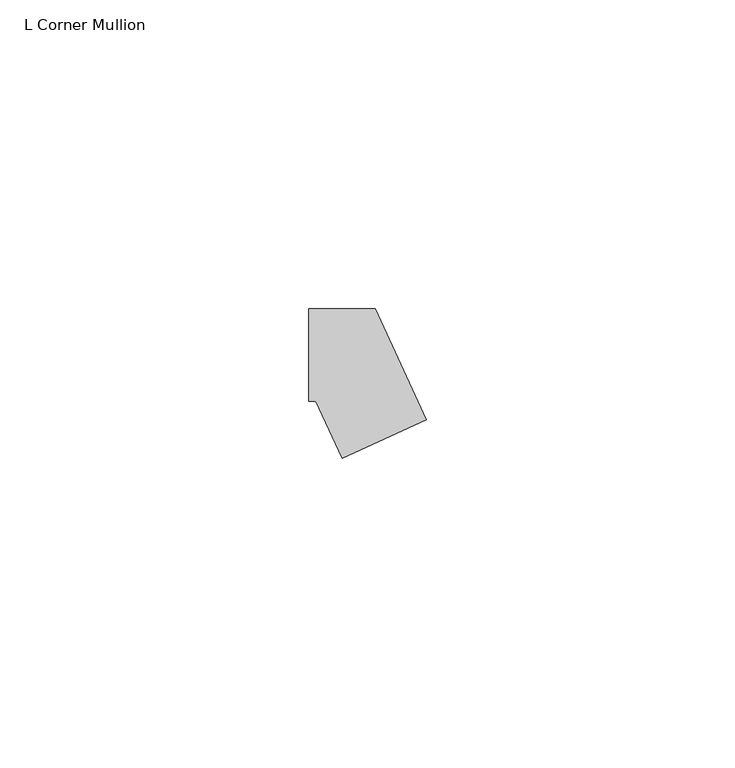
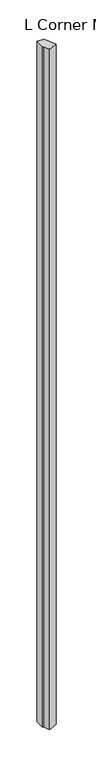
"""IFC4 building model written with IfcOpenShell, lengths in millimetres: member geometry, L Corner Mullion : ARQ_HERR_15X6mm."""

import ifcopenshell
import ifcopenshell.guid

model = None  # the IFC model being written
_history = None  # IfcOwnerHistory: only IFC2X3 demands one
_inside = {}  # id of a spatial element -> (the spatial element, [elements in it])
_under = {}  # id of a project, library or spatial element -> (it, [spatial elements below it])
_declared = {}  # id of a project -> (the project, [libraries it declares])
_typed = {}  # id of a type object -> (the type object, [elements of that type])
_made_of = {}  # id of a material, layer set ... -> (it, [elements and type objects made of it])


def new_model(schema):
    """Start an empty IFC model of exactly this schema.

    Asked for "IFC4X3", IfcOpenShell would pick the latest addendum, in which some entities
    have other attributes; the version numbers below select the first issue.
    IFC2X3 requires an IfcOwnerHistory on every rooted entity: one is made here for all.
    """
    global model, _history
    if schema == "IFC4X3":
        model = ifcopenshell.file(schema_version=(4, 3, 0, 0))
    else:
        model = ifcopenshell.file(schema=schema)
    _inside.clear()
    _under.clear()
    _declared.clear()
    _typed.clear()
    _made_of.clear()
    _history = None
    if model.schema == "IFC2X3":
        org = make("IfcOrganization", Name="unknown")
        user = make(
            "IfcPersonAndOrganization",
            ThePerson=make("IfcPerson", FamilyName="unknown"),
            TheOrganization=org,
        )
        app = make(
            "IfcApplication",
            ApplicationDeveloper=org,
            Version="unknown",
            ApplicationFullName="unknown",
            ApplicationIdentifier="unknown",
        )
        _history = make(
            "IfcOwnerHistory",
            OwningUser=user,
            OwningApplication=app,
            ChangeAction="ADDED",
            CreationDate=0,
        )
    return model


def make(cls, **values):
    """One entity of the class cls with the attributes given. An attribute that is None is left unset."""
    return model.create_entity(
        cls, **{name: value for name, value in values.items() if value is not None}
    )


def rooted(cls, **values):
    """An entity with a GlobalId (a new one), such as an element, a storey or a relation."""
    return make(cls, GlobalId=ifcopenshell.guid.new(), OwnerHistory=_history, **values)


def si_unit(unit_type, name, prefix=None):
    """IfcSIUnit, for example si_unit("LENGTHUNIT", "METRE", prefix="MILLI")."""
    return make("IfcSIUnit", UnitType=unit_type, Prefix=prefix, Name=name)


def assignment(units):
    """IfcUnitAssignment: the units of a project."""
    return None if units is None else make("IfcUnitAssignment", Units=units)


def point(xyz):
    """IfcCartesianPoint."""
    return None if xyz is None else make("IfcCartesianPoint", Coordinates=xyz)


def direction(xyz):
    """IfcDirection."""
    return None if xyz is None else make("IfcDirection", DirectionRatios=xyz)


def frame(location, z_axis=None, x_axis=None):
    """IfcAxis2Placement3D, a coordinate frame: its origin and axes. An axis left out is left unset."""
    return make(
        "IfcAxis2Placement3D",
        Location=point(location),
        Axis=direction(z_axis),
        RefDirection=direction(x_axis),
    )


def origin():
    """The frame at (0, 0, 0) with its axes left unset."""
    return frame((0.0, 0.0, 0.0))


def place(relative_to, where):
    """IfcLocalPlacement: puts the frame where relative to a parent placement (None: the world)."""
    return make(
        "IfcLocalPlacement", PlacementRelTo=relative_to, RelativePlacement=where
    )


def context(
    kind, dimensions, precision=None, world=None, true_north=None, identifier=None
):
    """IfcGeometricRepresentationContext, for example the 3D "Model" context."""
    return make(
        "IfcGeometricRepresentationContext",
        ContextIdentifier=identifier,
        ContextType=kind,
        CoordinateSpaceDimension=dimensions,
        Precision=precision,
        WorldCoordinateSystem=world,
        TrueNorth=true_north,
    )


def project(units=None, contexts=None):
    """IfcProject with its units and contexts."""
    return rooted(
        "IfcProject",
        Name="project",
        RepresentationContexts=contexts,
        UnitsInContext=assignment(units),
    )


def spatial(cls, under=None, at=None, **own):
    """A site, building, storey or space (cls), placed at a placement, below another one or the project."""
    s = rooted(cls, ObjectPlacement=at, **own)
    if under is not None:
        _under.setdefault(under.id(), (under, []))[1].append(s)
    return s


def polyline(points):
    """IfcPolyline through the points."""
    return make("IfcPolyline", Points=[point(p) for p in points])


def outline(outer, holes=None, kind="AREA"):
    """IfcArbitraryClosedProfileDef: a profile drawn as a closed curve; with holes, ...WithVoids."""
    if holes is None:
        return make("IfcArbitraryClosedProfileDef", ProfileType=kind, OuterCurve=outer)
    return make(
        "IfcArbitraryProfileDefWithVoids",
        ProfileType=kind,
        OuterCurve=outer,
        InnerCurves=holes,
    )


def extrude(swept, where, along, depth):
    """IfcExtrudedAreaSolid: the profile swept, set in the frame where, extruded along a direction by depth."""
    return make(
        "IfcExtrudedAreaSolid",
        SweptArea=swept,
        Position=where,
        ExtrudedDirection=direction(along),
        Depth=depth,
    )


def shape(context_of_items, identifier, shape_type, items):
    """IfcShapeRepresentation: the items that make up one representation, for example the "Body"."""
    return make(
        "IfcShapeRepresentation",
        ContextOfItems=context_of_items,
        RepresentationIdentifier=identifier,
        RepresentationType=shape_type,
        Items=items,
    )


def source(mapping_origin, context_of_items, identifier, shape_type, items):
    """IfcRepresentationMap: a shape defined once, which mapped items show again and again."""
    return make(
        "IfcRepresentationMap",
        MappingOrigin=mapping_origin,
        MappedRepresentation=shape(context_of_items, identifier, shape_type, items),
    )


def transform(
    local_origin,
    x_axis=None,
    y_axis=None,
    z_axis=None,
    scale=None,
    scale2=None,
    scale3=None,
    uniform=True,
):
    """IfcCartesianTransformationOperator3D, or its non-uniform kind. x_axis, y_axis, z_axis: its Axis1, 2, 3."""
    if uniform:
        return make(
            "IfcCartesianTransformationOperator3D",
            Axis1=direction(x_axis),
            Axis2=direction(y_axis),
            LocalOrigin=point(local_origin),
            Scale=scale,
            Axis3=direction(z_axis),
        )
    return make(
        "IfcCartesianTransformationOperator3DnonUniform",
        Axis1=direction(x_axis),
        Axis2=direction(y_axis),
        LocalOrigin=point(local_origin),
        Scale=scale,
        Axis3=direction(z_axis),
        Scale2=scale2,
        Scale3=scale3,
    )


def mapped(mapping_source, mapping_target):
    """IfcMappedItem: shows the shape of a source again, moved by a transform."""
    return make(
        "IfcMappedItem", MappingSource=mapping_source, MappingTarget=mapping_target
    )


def made_of(thing, what):
    """Note that an element or type object is made of a material, layer set ...; save() writes the relation."""
    if what is not None:
        _made_of.setdefault(what.id(), (what, []))[1].append(thing)
    return thing


def element(
    cls,
    number,
    at=None,
    inside=None,
    cuts=None,
    type_object=None,
    material=None,
    context=None,
    identifier="Body",
    shape_type=None,
    held_by="IfcProductDefinitionShape",
    body=None,
    shapes=None,
    **own,
):
    """One element of the class cls, such as IfcWall. Its Tag is "e" and its number.

    at: its placement. inside: the storey or other place that contains it. cuts: it is an
    opening in that element (IfcRelVoidsElement). A single representation is given by context,
    identifier, shape_type and body (its items); several are given by shapes. held_by: the class
    of the entity that holds the representations. save() writes the other relations.
    """
    e = rooted(cls, Tag="e%d" % number, ObjectPlacement=at, **own)
    if body is not None:
        shapes = [shape(context, identifier, shape_type, body)]
    if shapes is not None:
        e.Representation = make(held_by, Representations=shapes)
    if inside is not None:
        _inside.setdefault(inside.id(), (inside, []))[1].append(e)
    if cuts is not None:
        rooted(
            "IfcRelVoidsElement", RelatingBuildingElement=cuts, RelatedOpeningElement=e
        )
    if type_object is not None:
        _typed.setdefault(type_object.id(), (type_object, []))[1].append(e)
    return made_of(e, material)


def aggregate(whole, parts):
    """IfcRelAggregates: a whole, such as a stair, and the parts it consists of."""
    return rooted("IfcRelAggregates", RelatingObject=whole, RelatedObjects=parts)


def save(model, path):
    """Write the relations noted so far, then the file.

    IfcRelAggregates (storeys below a building ...), IfcRelContainedInSpatialStructure (elements
    in a storey), IfcRelDefinesByType, IfcRelAssociatesMaterial and IfcRelDeclares: one each for
    every whole, place, type object, material and project.
    """
    for whole, parts in _under.values():
        aggregate(whole, parts)
    for where, things in _inside.values():
        rooted(
            "IfcRelContainedInSpatialStructure",
            RelatedElements=things,
            RelatingStructure=where,
        )
    for kind, things in _typed.values():
        rooted("IfcRelDefinesByType", RelatedObjects=things, RelatingType=kind)
    for what, things in _made_of.values():
        rooted("IfcRelAssociatesMaterial", RelatedObjects=things, RelatingMaterial=what)
    for by, libraries in _declared.values():
        rooted("IfcRelDeclares", RelatingContext=by, RelatedDefinitions=libraries)
    model.write(path)


def l_corner_mullion_42859779(model_context):
    return source(origin(), model_context, "Body", "SweptSolid", [
        extrude(outline(polyline([(-0.5775282, -16.7605627), (-4.8156946, -7.5), (-6.0, -7.5), (-6.0, 7.5), (4.8156946, 7.5), (13.0619332, -10.5183601), (-0.5775282, -16.7605627)])), frame((0.0, 0.0, -1112.2700874), z_axis=(0.0, 0.0, 1.0), x_axis=(1.0, 0.0, 0.0)), (0.0, 0.0, 1.0), 1112.2700874),
    ])


if __name__ == "__main__":
    model = new_model("IFC4")
    model_context = context("Model", 3, world=origin())
    ifc_project = project(units=[si_unit("LENGTHUNIT", "METRE", prefix="MILLI")], contexts=[model_context])
    site = spatial("IfcSite", under=ifc_project)
    building = spatial("IfcBuilding", under=site)
    placement = place(None, origin())
    l_corner_mullion_shape = l_corner_mullion_42859779(model_context)
    element("IfcMember", 1, ObjectType="L Corner Mullion : ARQ_HERR_15X6mm", at=placement, inside=building, context=model_context, shape_type="MappedRepresentation", body=[
        mapped(l_corner_mullion_shape, transform((0.0, 0.0, 0.0), x_axis=(1.0, 0.0, 0.0), y_axis=(0.0, 1.0, 0.0), z_axis=(0.0, 0.0, 1.0))),
    ])
    save(model, "model.ifc")
